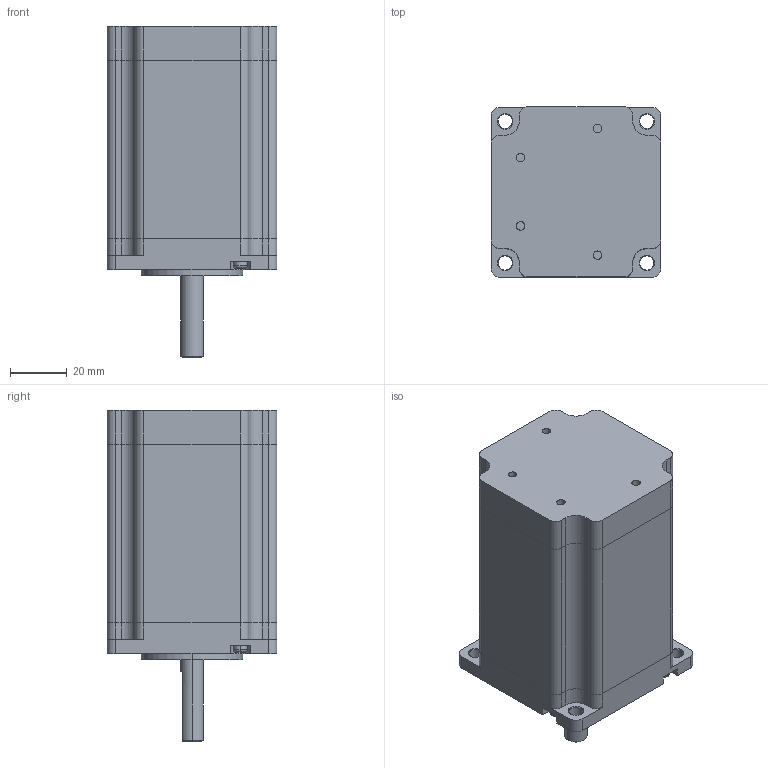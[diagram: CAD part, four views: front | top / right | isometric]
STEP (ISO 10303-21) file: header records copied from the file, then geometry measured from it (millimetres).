
FILE_DESCRIPTION (( 'STEP AP214' ), '1' );
FILE_NAME ('60总线一体化.STEP', '2016-11-16T09:27:33', ( '微软中国' ), ( '微软用户' ), 'SwSTEP 2.0', 'SolidWorks 2010', '' );
FILE_SCHEMA (( 'AUTOMOTIVE_DESIGN' ));
Length unit declared in the file: millimetre
Products named in the file (4): 60珨极趙奻裔; 60菁裔; 60儂旯; 60軞盄珨极趙
Assembly tree (3 placements, depth 2):
  60軞盄珨极趙
    60菁裔
    60儂旯
    60珨极趙奻裔
Bounding box: 60 x 60 x 117 mm (x, y, z)
Volume: 279122.2 mm3; surface area: 41183.5 mm2
Topology: 3 solids, 3 shells, 243 faces, 645 edges, 421 vertices
Faces by surface type: plane 137, cylinder 75, cone 23, torus 8
Entity records: 8958 total; most frequent: CARTESIAN_POINT 1610, ORIENTED_EDGE 1290, DIRECTION 1286, EDGE_CURVE 645, AXIS2_PLACEMENT_3D 451, VERTEX_POINT 421, VECTOR 384, LINE 384
